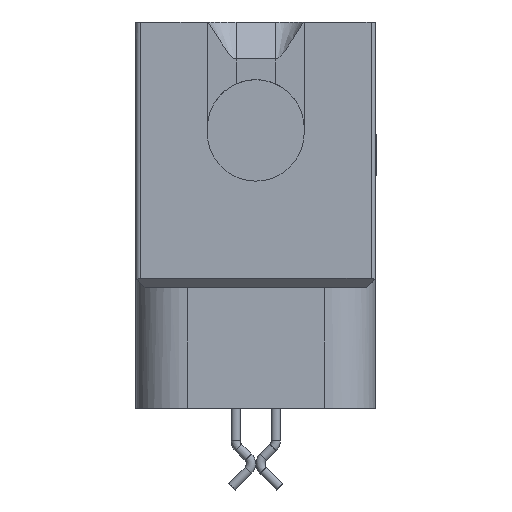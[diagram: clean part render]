
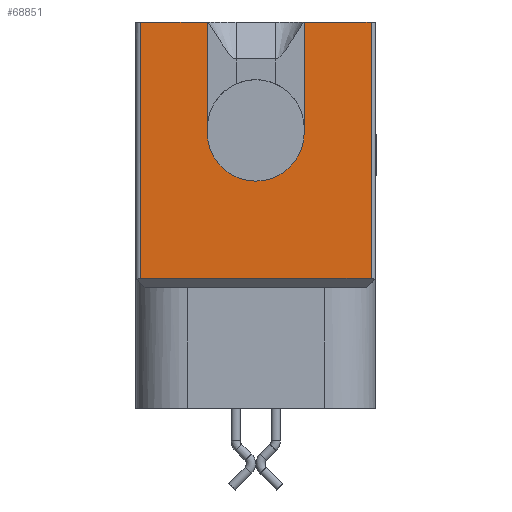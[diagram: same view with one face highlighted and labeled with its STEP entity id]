
A CAD part, left-side view. The second image highlights one B-rep face of the part: STEP entity #68851.
In plain terms, the highlighted planar face has unit normal (-1, 0, 0).
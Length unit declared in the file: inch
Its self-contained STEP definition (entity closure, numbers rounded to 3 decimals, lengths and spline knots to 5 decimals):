
#30 = ORIENTED_EDGE ( 'NONE', *, *, #63495, .T. ) ;
#1522 = CIRCLE ( 'NONE', #15813, 0.0525 ) ;
#2808 = ORIENTED_EDGE ( 'NONE', *, *, #65013, .T. ) ;
#2985 = FACE_OUTER_BOUND ( 'NONE', #30374, .T. ) ;
#4226 = AXIS2_PLACEMENT_3D ( 'NONE', #7819, #13081, #53697 ) ;
#4437 = DIRECTION ( 'NONE',  ( 0., 1., 0. ) ) ;
#4702 = ORIENTED_EDGE ( 'NONE', *, *, #52685, .T. ) ;
#6544 = VECTOR ( 'NONE', #47837, 39.37008 ) ;
#6595 = VERTEX_POINT ( 'NONE', #62393 ) ;
#7648 = ORIENTED_EDGE ( 'NONE', *, *, #25001, .T. ) ;
#7790 = VECTOR ( 'NONE', #8885, 39.37008 ) ;
#7819 = CARTESIAN_POINT ( 'NONE',  ( -0.6625, -0.13, 0.235 ) ) ;
#8694 = LINE ( 'NONE', #47089, #6544 ) ;
#8732 = DIRECTION ( 'NONE',  ( 1., 0., 0. ) ) ;
#8885 = DIRECTION ( 'NONE',  ( 0., 1., 0. ) ) ;
#8900 = VERTEX_POINT ( 'NONE', #48605 ) ;
#9149 = AXIS2_PLACEMENT_3D ( 'NONE', #25903, #8732, #54602 ) ;
#9533 = CARTESIAN_POINT ( 'NONE',  ( -0.6625, 0., 0.0625 ) ) ;
#10645 = DIRECTION ( 'NONE',  ( 0., 0., 1. ) ) ;
#11588 = VERTEX_POINT ( 'NONE', #69044 ) ;
#11864 = VECTOR ( 'NONE', #26406, 39.37008 ) ;
#11868 = CARTESIAN_POINT ( 'NONE',  ( -0.6625, 0.0525, 0.235 ) ) ;
#13081 = DIRECTION ( 'NONE',  ( -1., 0., 0. ) ) ;
#15212 = ORIENTED_EDGE ( 'NONE', *, *, #73178, .T. ) ;
#15813 = AXIS2_PLACEMENT_3D ( 'NONE', #63360, #45480, #62981 ) ;
#16728 = ORIENTED_EDGE ( 'NONE', *, *, #20148, .T. ) ;
#20148 = EDGE_CURVE ( 'NONE', #6595, #8900, #50152, .T. ) ;
#21126 = VECTOR ( 'NONE', #10645, 39.37008 ) ;
#21973 = LINE ( 'NONE', #55537, #33417 ) ;
#22921 = VECTOR ( 'NONE', #50773, 39.37008 ) ;
#23469 = CARTESIAN_POINT ( 'NONE',  ( -0.6625, 0.0525, 0.235 ) ) ;
#24299 = VERTEX_POINT ( 'NONE', #37994 ) ;
#25001 = EDGE_CURVE ( 'NONE', #11588, #70312, #48034, .T. ) ;
#25903 = CARTESIAN_POINT ( 'NONE',  ( -0.6625, 0., 0.115 ) ) ;
#26406 = DIRECTION ( 'NONE',  ( 0., 0., -1. ) ) ;
#26408 = LINE ( 'NONE', #42805, #7790 ) ;
#27372 = VERTEX_POINT ( 'NONE', #11868 ) ;
#29674 = ORIENTED_EDGE ( 'NONE', *, *, #32078, .T. ) ;
#30374 = EDGE_LOOP ( 'NONE', ( #7648, #2808, #16728, #4702, #69664, #15212, #29674, #37905, #30 ) ) ;
#32078 = EDGE_CURVE ( 'NONE', #67538, #64045, #1522, .T. ) ;
#33417 = VECTOR ( 'NONE', #4437, 39.37008 ) ;
#37905 = ORIENTED_EDGE ( 'NONE', *, *, #70348, .F. ) ;
#37994 = CARTESIAN_POINT ( 'NONE',  ( -0.6625, -0.0525, 0.235 ) ) ;
#38878 = LINE ( 'NONE', #72700, #22921 ) ;
#40875 = CARTESIAN_POINT ( 'NONE',  ( -0.6625, 0.0525, 0.115 ) ) ;
#42805 = CARTESIAN_POINT ( 'NONE',  ( -0.6625, -0.13, 0.235 ) ) ;
#42853 = PLANE ( 'NONE',  #4226 ) ;
#43461 = CARTESIAN_POINT ( 'NONE',  ( -0.6625, -0.125, 0.235 ) ) ;
#45480 = DIRECTION ( 'NONE',  ( 1., 0., 0. ) ) ;
#47089 = CARTESIAN_POINT ( 'NONE',  ( -0.6625, -0.0525, 0.235 ) ) ;
#47264 = EDGE_CURVE ( 'NONE', #64450, #24299, #8694, .T. ) ;
#47837 = DIRECTION ( 'NONE',  ( 0., 0., 1. ) ) ;
#48034 = LINE ( 'NONE', #70337, #11864 ) ;
#48605 = CARTESIAN_POINT ( 'NONE',  ( -0.6625, -0.125, 0.235 ) ) ;
#49660 = CIRCLE ( 'NONE', #9149, 0.0525 ) ;
#49689 = LINE ( 'NONE', #23469, #63427 ) ;
#50152 = LINE ( 'NONE', #43461, #21126 ) ;
#50773 = DIRECTION ( 'NONE',  ( 0., -1., 0. ) ) ;
#52685 = EDGE_CURVE ( 'NONE', #8900, #24299, #26408, .T. ) ;
#53697 = DIRECTION ( 'NONE',  ( 0., 0., 1. ) ) ;
#54602 = DIRECTION ( 'NONE',  ( 0., 0., 1. ) ) ;
#55537 = CARTESIAN_POINT ( 'NONE',  ( -0.6625, -0.13, 0.235 ) ) ;
#62393 = CARTESIAN_POINT ( 'NONE',  ( -0.6625, -0.125, -0.043 ) ) ;
#62952 = DIRECTION ( 'NONE',  ( 0., 0., -1. ) ) ;
#62981 = DIRECTION ( 'NONE',  ( 0., 0., 1. ) ) ;
#63360 = CARTESIAN_POINT ( 'NONE',  ( -0.6625, 0., 0.115 ) ) ;
#63427 = VECTOR ( 'NONE', #62952, 39.37008 ) ;
#63495 = EDGE_CURVE ( 'NONE', #27372, #11588, #21973, .T. ) ;
#63658 = CARTESIAN_POINT ( 'NONE',  ( -0.6625, -0.0525, 0.115 ) ) ;
#64045 = VERTEX_POINT ( 'NONE', #40875 ) ;
#64450 = VERTEX_POINT ( 'NONE', #63658 ) ;
#65013 = EDGE_CURVE ( 'NONE', #70312, #6595, #38878, .T. ) ;
#67538 = VERTEX_POINT ( 'NONE', #9533 ) ;
#68851 = ADVANCED_FACE ( 'NONE', ( #2985 ), #42853, .T. ) ;
#69044 = CARTESIAN_POINT ( 'NONE',  ( -0.6625, 0.125, 0.235 ) ) ;
#69664 = ORIENTED_EDGE ( 'NONE', *, *, #47264, .F. ) ;
#70025 = CARTESIAN_POINT ( 'NONE',  ( -0.6625, 0.125, -0.043 ) ) ;
#70312 = VERTEX_POINT ( 'NONE', #70025 ) ;
#70337 = CARTESIAN_POINT ( 'NONE',  ( -0.6625, 0.125, 0.235 ) ) ;
#70348 = EDGE_CURVE ( 'NONE', #27372, #64045, #49689, .T. ) ;
#72700 = CARTESIAN_POINT ( 'NONE',  ( -0.6625, -0.13, -0.043 ) ) ;
#73178 = EDGE_CURVE ( 'NONE', #64450, #67538, #49660, .T. ) ;
